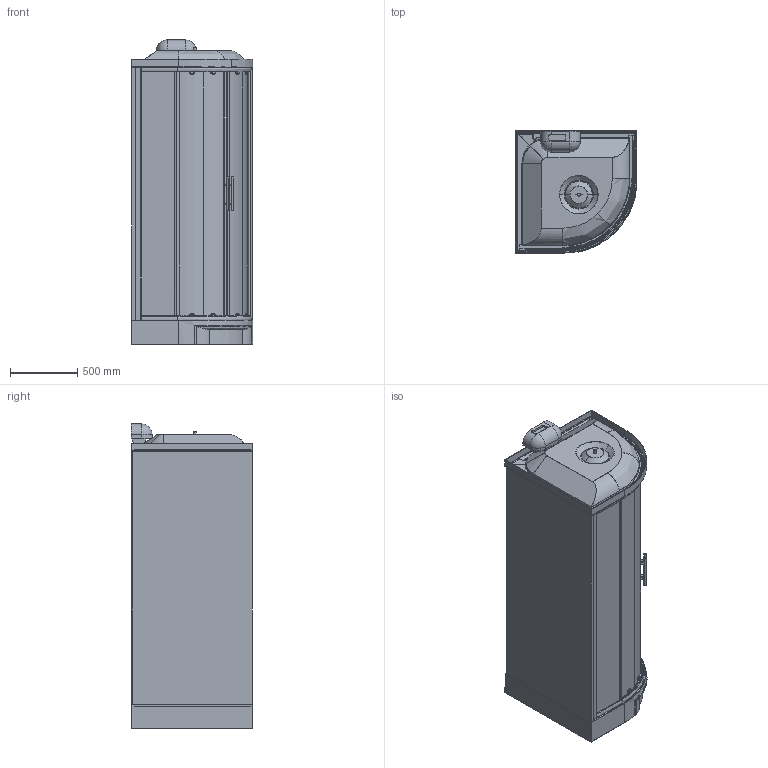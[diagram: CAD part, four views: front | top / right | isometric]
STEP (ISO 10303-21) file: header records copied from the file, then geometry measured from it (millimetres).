
FILE_DESCRIPTION(('STEP AP203'),'2;1');
FILE_NAME('NNH R90 T 19 N.stp','2015-09-04T15:51:18',(''),(''),'2014.1.117','THINKDESIGN','');
FILE_SCHEMA(('CONFIG_CONTROL_DESIGN'));
Length unit declared in the file: millimetre
Products named in the file (1): top
Bounding box: 904 x 904 x 2254.33 mm (x, y, z)
Volume: 213651022.9 mm3; surface area: 19802785.8 mm2
Topology: 58 solids, 58 shells, 1087 faces, 2541 edges, 1581 vertices
Faces by surface type: bspline 649, plane 320, cylinder 118
Entity records: 106176 total; most frequent: CARTESIAN_POINT 85450, ORIENTED_EDGE 5030, DIRECTION 2799, EDGE_CURVE 2515, VERTEX_POINT 1573, EDGE_LOOP 1116, FACE_OUTER_BOUND 1085, ADVANCED_FACE 1085
